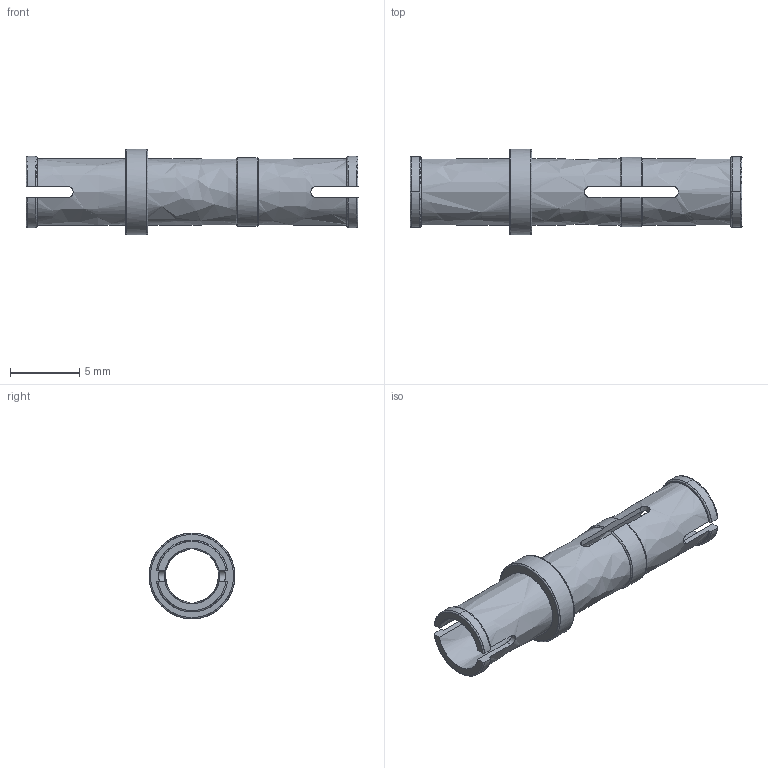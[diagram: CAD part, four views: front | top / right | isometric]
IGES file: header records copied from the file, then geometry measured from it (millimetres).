
Start section: C
Global section: file name: Sand_4514554_MCM.iges; native system: By Siemens PLM Incorporated; preprocessor: XPlus GENERIC/IGES 26.1.183; author: Author; organization: Title; date: 20250722.000408; units: millimetre
Bounding box: 24 x 6.19 x 6.2 mm (x, y, z)
Surface area: 700.3 mm2 (no closed solid volume)
Topology: 0 solids, 0 shells, 63 faces, 588 edges, 588 vertices
Faces by surface type: bspline 63
